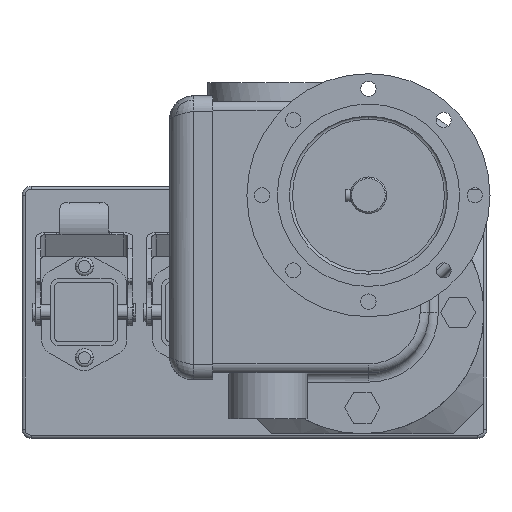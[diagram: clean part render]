
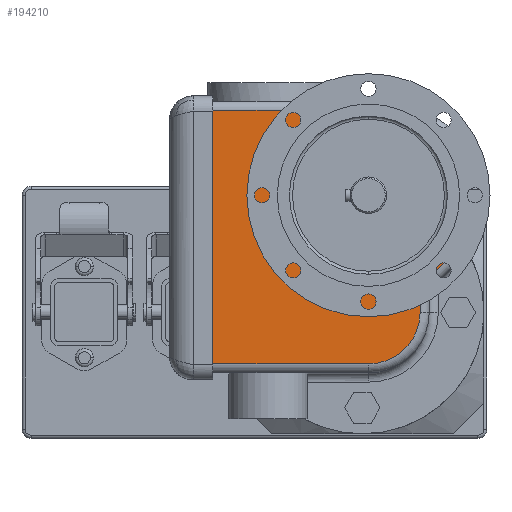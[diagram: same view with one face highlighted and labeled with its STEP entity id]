
A CAD part, left-side view. The second image highlights one B-rep face of the part: STEP entity #194210.
In plain terms, the highlighted planar face has unit normal (-1, 0, 0) as drawn and (0, 0, 1) by its records, which use the part's own axes.
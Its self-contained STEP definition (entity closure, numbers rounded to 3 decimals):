
#155970=CARTESIAN_POINT('',(-107.055,-324.978,209.));
#155980=VERTEX_POINT('',#155970);
#156170=CARTESIAN_POINT('',(-121.28,-316.477,209.));
#156180=VERTEX_POINT('',#156170);
#156210=CARTESIAN_POINT('',(-106.542,-307.966,209.));
#156220=DIRECTION('',(0.,0.,1.));
#156230=DIRECTION('',(1.,0.,0.));
#156240=AXIS2_PLACEMENT_3D('',#156210,#156220,#156230);
#156250=CIRCLE('',#156240,17.02);
#156260=EDGE_CURVE('',#156180,#155980,#156250,.T.);
#156430=CARTESIAN_POINT('',(-71.121,-312.554,209.));
#156440=VERTEX_POINT('',#156430);
#156470=CARTESIAN_POINT('',(-65.125,-312.788,209.));
#156480=DIRECTION('',(0.,0.,1.));
#156490=DIRECTION('',(1.,0.,0.));
#156500=AXIS2_PLACEMENT_3D('',#156470,#156480,#156490);
#156510=CIRCLE('',#156500,6.);
#156520=CARTESIAN_POINT('',(-70.39,-309.91,209.));
#156530=VERTEX_POINT('',#156520);
#156540=EDGE_CURVE('',#156530,#156440,#156510,.T.);
#156850=CARTESIAN_POINT('',(-66.958,-296.478,209.));
#156860=VERTEX_POINT('',#156850);
#156910=CARTESIAN_POINT('',(-66.958,-286.671,209.));
#156920=DIRECTION('',(0.,-1.,0.));
#156930=VECTOR('',#156920,1.);
#156940=LINE('',#156910,#156930);
#156950=CARTESIAN_POINT('',(-66.958,-245.271,209.));
#156960=VERTEX_POINT('',#156950);
#156970=EDGE_CURVE('',#156960,#156860,#156940,.T.);
#169520=CARTESIAN_POINT('',(-139.846,-245.271,209.));
#169530=DIRECTION('',(1.,0.,0.));
#169540=VECTOR('',#169530,1.);
#169550=LINE('',#169520,#169540);
#169560=CARTESIAN_POINT('',(-150.458,-245.271,209.));
#169570=VERTEX_POINT('',#169560);
#169580=EDGE_CURVE('',#169570,#156960,#169550,.T.);
#178510=CARTESIAN_POINT('',(-133.458,-313.478,209.));
#178520=VERTEX_POINT('',#178510);
#178710=CARTESIAN_POINT('',(-150.458,-296.478,209.));
#178720=VERTEX_POINT('',#178710);
#178750=CARTESIAN_POINT('',(-133.458,-296.478,209.));
#178760=DIRECTION('',(0.,0.,1.));
#178770=DIRECTION('',(1.,0.,0.));
#178780=AXIS2_PLACEMENT_3D('',#178750,#178760,#178770);
#178790=CIRCLE('',#178780,17.);
#178800=EDGE_CURVE('',#178720,#178520,#178790,.T.);
#181510=CARTESIAN_POINT('',(-126.476,-313.478,209.));
#181520=VERTEX_POINT('',#181510);
#181550=CARTESIAN_POINT('',(-126.476,-319.478,209.));
#181560=DIRECTION('',(0.,0.,1.));
#181570=DIRECTION('',(1.,0.,0.));
#181580=AXIS2_PLACEMENT_3D('',#181550,#181560,#181570);
#181590=CIRCLE('',#181580,6.);
#181600=EDGE_CURVE('',#156180,#181520,#181590,.T.);
#186870=CARTESIAN_POINT('',(-150.458,-286.671,209.));
#186880=DIRECTION('',(0.,-1.,0.));
#186890=VECTOR('',#186880,1.);
#186900=LINE('',#186870,#186890);
#186910=EDGE_CURVE('',#169570,#178720,#186900,.T.);
#191570=CARTESIAN_POINT('',(-94.958,-296.478,209.));
#191580=DIRECTION('',(0.,0.,1.));
#191590=DIRECTION('',(1.,0.,0.));
#191600=AXIS2_PLACEMENT_3D('',#191570,#191580,#191590);
#191610=CIRCLE('',#191600,28.);
#191620=EDGE_CURVE('',#156530,#156860,#191610,.T.);
#191680=CARTESIAN_POINT('',(-139.846,-324.978,209.));
#191690=DIRECTION('',(1.,0.,0.));
#191700=VECTOR('',#191690,1.);
#191710=LINE('',#191680,#191700);
#191720=CARTESIAN_POINT('',(-83.6,-324.978,209.));
#191730=VERTEX_POINT('',#191720);
#191740=EDGE_CURVE('',#155980,#191730,#191710,.T.);
#192890=CARTESIAN_POINT('',(-84.048,-312.048,209.));
#192900=DIRECTION('',(0.,0.,1.));
#192910=DIRECTION('',(1.,0.,0.));
#192920=AXIS2_PLACEMENT_3D('',#192890,#192900,#192910);
#192930=CIRCLE('',#192920,12.937);
#192940=EDGE_CURVE('',#191730,#156440,#192930,.T.);
#193790=CARTESIAN_POINT('',(-139.846,-313.478,209.));
#193800=DIRECTION('',(-1.,0.,0.));
#193810=VECTOR('',#193800,1.);
#193820=LINE('',#193790,#193810);
#193830=EDGE_CURVE('',#181520,#178520,#193820,.T.);
#193880=CARTESIAN_POINT('',(-106.445,-262.636,209.));
#193890=DIRECTION('',(0.,0.,1.));
#193900=DIRECTION('',(1.,0.,0.));
#193910=AXIS2_PLACEMENT_3D('',#193880,#193890,#193900);
#193920=PLANE('',#193910);
#193930=ORIENTED_EDGE('',*,*,#156260,.T.);
#193940=ORIENTED_EDGE('',*,*,#181600,.F.);
#193950=ORIENTED_EDGE('',*,*,#193830,.F.);
#193960=ORIENTED_EDGE('',*,*,#178800,.T.);
#193970=ORIENTED_EDGE('',*,*,#186910,.T.);
#193980=ORIENTED_EDGE('',*,*,#169580,.F.);
#193990=ORIENTED_EDGE('',*,*,#156970,.F.);
#194000=ORIENTED_EDGE('',*,*,#191620,.T.);
#194010=ORIENTED_EDGE('',*,*,#156540,.F.);
#194020=ORIENTED_EDGE('',*,*,#192940,.T.);
#194030=ORIENTED_EDGE('',*,*,#191740,.T.);
#194040=EDGE_LOOP('',(#194030,#194020,#194010,#194000,#193990,#193980,
#193970,#193960,#193950,#193940,#193930));
#194050=FACE_OUTER_BOUND('',#194040,.T.);
#194060=CARTESIAN_POINT('',(-94.958,-296.478,209.));
#194070=DIRECTION('',(0.,0.,-1.));
#194080=DIRECTION('',(-1.,0.,0.));
#194090=AXIS2_PLACEMENT_3D('',#194060,#194070,#194080);
#194100=CIRCLE('',#194090,25.);
#194110=CARTESIAN_POINT('',(-119.958,-296.478,209.));
#194120=VERTEX_POINT('',#194110);
#194130=CARTESIAN_POINT('',(-69.958,-296.478,209.));
#194140=VERTEX_POINT('',#194130);
#194150=EDGE_CURVE('',#194120,#194140,#194100,.T.);
#194160=ORIENTED_EDGE('',*,*,#194150,.T.);
#194170=EDGE_CURVE('',#194140,#194120,#194100,.T.);
#194180=ORIENTED_EDGE('',*,*,#194170,.T.);
#194190=EDGE_LOOP('',(#194180,#194160));
#194200=FACE_BOUND('',#194190,.T.);
#194210=ADVANCED_FACE('',(#194050,#194200),#193920,.T.);
